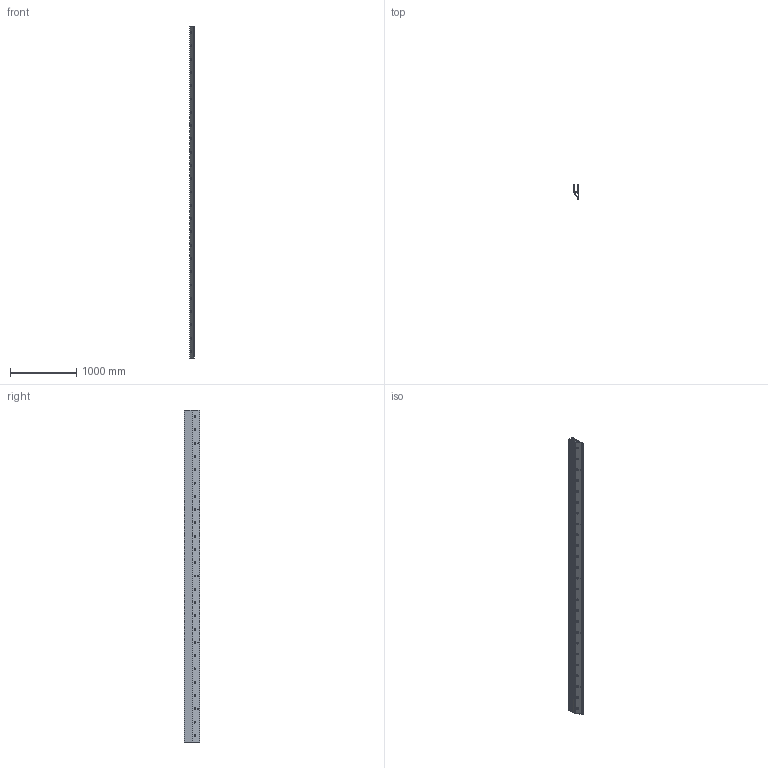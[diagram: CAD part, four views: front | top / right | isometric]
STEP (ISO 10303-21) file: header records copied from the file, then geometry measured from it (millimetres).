
FILE_DESCRIPTION(/* description */ ('TURBOFLEX TL-3621 glass profile 1.0kN side mount L=5000mm aluminum mill finish'),/* implementation_level */ '2;1');
FILE_NAME(/* name */ '1036210051x.stp',/* time_stamp */ '2025-11-13T10:29:14+01:00',/* author */ ('nethmini'),/* organization */ (''),/* preprocessor_version */ 'ST-DEVELOPER v19.2',/* originating_system */ 'Autodesk Inventor 2024',/* authorisation */ '');
FILE_SCHEMA (('AUTOMOTIVE_DESIGN { 1 0 10303 214 3 1 1 }'));
Length unit declared in the file: millimetre
Products named in the file (1): 10362100510
Bounding box: 74.83 x 229.95 x 5000 mm (x, y, z)
Volume: 16986049.7 mm3; surface area: 8464429.6 mm2
Topology: 1 solids, 1 shells, 272 faces, 820 edges, 545 vertices
Faces by surface type: cylinder 180, plane 92
Full cylindrical faces by diameter (mm): 12 x15, 14 x25, 30 x25
Entity records: 9757 total; most frequent: CARTESIAN_POINT 1738, DIRECTION 1696, ORIENTED_EDGE 1640, EDGE_CURVE 820, AXIS2_PLACEMENT_3D 623, VERTEX_POINT 545, LINE 450, VECTOR 450
